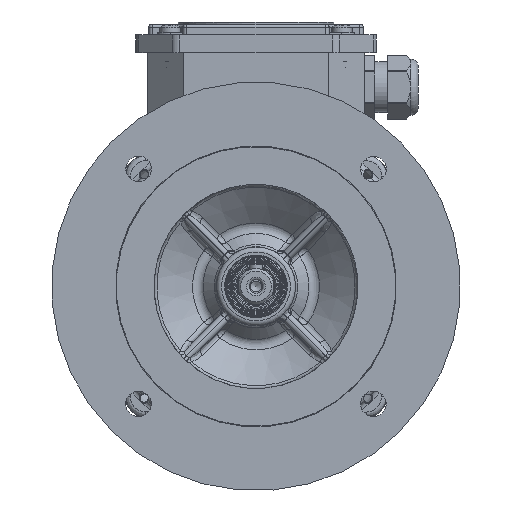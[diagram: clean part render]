
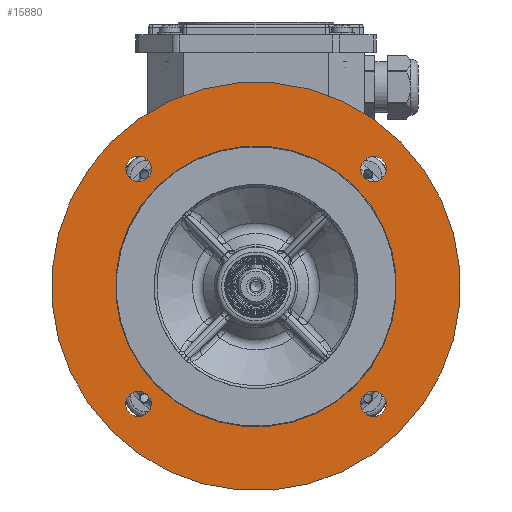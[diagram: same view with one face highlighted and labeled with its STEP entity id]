
A CAD part, front view. The second image highlights one B-rep face of the part: STEP entity #15880.
In plain terms, the highlighted planar face has unit normal (0, -1, 0).
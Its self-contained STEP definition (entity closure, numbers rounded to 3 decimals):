
#13444=PLANE('',#54234);
#15880=ADVANCED_FACE('',(#18724,#18725,#18726,#18727,#18728,#18729),#13444,
 .T.);
#18724=FACE_BOUND('',#20442,.T.);
#18725=FACE_BOUND('',#20443,.T.);
#18726=FACE_BOUND('',#20444,.T.);
#18727=FACE_BOUND('',#20445,.T.);
#18728=FACE_BOUND('',#20446,.T.);
#18729=FACE_BOUND('',#20447,.T.);
#20442=EDGE_LOOP('',(#27132));
#20443=EDGE_LOOP('',(#27133));
#20444=EDGE_LOOP('',(#27134));
#20445=EDGE_LOOP('',(#27135));
#20446=EDGE_LOOP('',(#27136));
#20447=EDGE_LOOP('',(#27137));
#27132=ORIENTED_EDGE('',*,*,#44809,.F.);
#27133=ORIENTED_EDGE('',*,*,#44810,.F.);
#27134=ORIENTED_EDGE('',*,*,#44811,.F.);
#27135=ORIENTED_EDGE('',*,*,#44812,.F.);
#27136=ORIENTED_EDGE('',*,*,#44813,.T.);
#27137=ORIENTED_EDGE('',*,*,#44814,.T.);
#39284=VERTEX_POINT('',#79771);
#39285=VERTEX_POINT('',#79773);
#39286=VERTEX_POINT('',#79775);
#39287=VERTEX_POINT('',#79777);
#39288=VERTEX_POINT('',#79779);
#39289=VERTEX_POINT('',#79781);
#44809=EDGE_CURVE('',#39284,#39284,#50840,.T.);
#44810=EDGE_CURVE('',#39285,#39285,#50841,.T.);
#44811=EDGE_CURVE('',#39286,#39286,#50842,.T.);
#44812=EDGE_CURVE('',#39287,#39287,#50843,.T.);
#44813=EDGE_CURVE('',#39288,#39288,#50844,.T.);
#44814=EDGE_CURVE('',#39289,#39289,#50845,.T.);
#50840=CIRCLE('',#54228,5.);
#50841=CIRCLE('',#54229,5.);
#50842=CIRCLE('',#54230,5.);
#50843=CIRCLE('',#54231,5.);
#50844=CIRCLE('',#54232,55.);
#50845=CIRCLE('',#54233,80.);
#54228=AXIS2_PLACEMENT_3D('',#79770,#61734,#61735);
#54229=AXIS2_PLACEMENT_3D('',#79772,#61736,#61737);
#54230=AXIS2_PLACEMENT_3D('',#79774,#61738,#61739);
#54231=AXIS2_PLACEMENT_3D('',#79776,#61740,#61741);
#54232=AXIS2_PLACEMENT_3D('',#79778,#61742,#61743);
#54233=AXIS2_PLACEMENT_3D('',#79780,#61744,#61745);
#54234=AXIS2_PLACEMENT_3D('',#79782,#61746,#61747);
#61734=DIRECTION('',(0.,-1.,0.));
#61735=DIRECTION('',(0.708,0.,0.707));
#61736=DIRECTION('',(0.,-1.,0.));
#61737=DIRECTION('',(-0.707,0.,0.708));
#61738=DIRECTION('',(0.,-1.,0.));
#61739=DIRECTION('',(-0.708,0.,-0.707));
#61740=DIRECTION('',(0.,-1.,0.));
#61741=DIRECTION('',(0.707,0.,-0.708));
#61742=DIRECTION('',(0.,1.,0.));
#61743=DIRECTION('',(0.707,0.,-0.708));
#61744=DIRECTION('',(0.,-1.,0.));
#61745=DIRECTION('',(0.707,0.,-0.708));
#61746=DIRECTION('',(0.,-1.,0.));
#61747=DIRECTION('',(-0.707,0.,0.708));
#79770=CARTESIAN_POINT('',(-45.934,-47.,45.99));
#79771=CARTESIAN_POINT('',(-42.396,-47.,49.523));
#79772=CARTESIAN_POINT('',(-45.99,-47.,-45.934));
#79773=CARTESIAN_POINT('',(-49.523,-47.,-42.396));
#79774=CARTESIAN_POINT('',(45.934,-47.,-45.99));
#79775=CARTESIAN_POINT('',(42.396,-47.,-49.523));
#79776=CARTESIAN_POINT('',(45.99,-47.,45.934));
#79777=CARTESIAN_POINT('',(49.523,-47.,42.396));
#79778=CARTESIAN_POINT('',(0.,-47.,0.));
#79779=CARTESIAN_POINT('',(38.867,-47.,-38.915));
#79780=CARTESIAN_POINT('',(0.,-47.,0.));
#79781=CARTESIAN_POINT('',(56.534,-47.,-56.603));
#79782=CARTESIAN_POINT('',(0.,-47.,0.));
